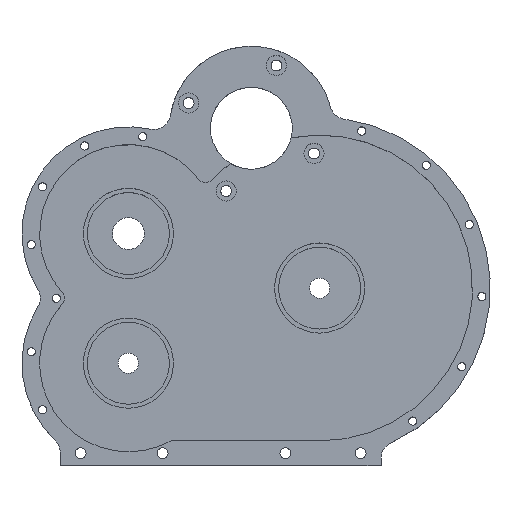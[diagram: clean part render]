
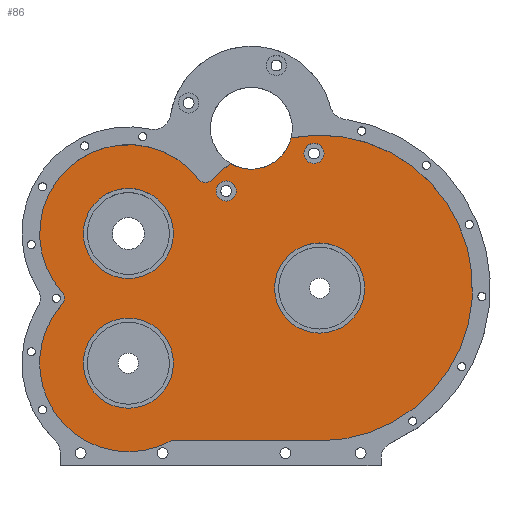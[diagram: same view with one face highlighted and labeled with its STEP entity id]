
A CAD part, top view. The second image highlights one B-rep face of the part: STEP entity #86.
In plain terms, the highlighted planar face has unit normal (0, 0, 1).
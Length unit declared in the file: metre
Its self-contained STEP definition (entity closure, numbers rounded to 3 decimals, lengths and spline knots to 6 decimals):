
#86 = ADVANCED_FACE( '', ( #226, #227, #228, #229, #230, #231 ), #232, .F. );
#226 = FACE_BOUND( '', #494, .T. );
#227 = FACE_BOUND( '', #495, .T. );
#228 = FACE_OUTER_BOUND( '', #496, .T. );
#229 = FACE_BOUND( '', #497, .T. );
#230 = FACE_BOUND( '', #498, .T. );
#231 = FACE_BOUND( '', #499, .T. );
#232 = PLANE( '', #500 );
#494 = EDGE_LOOP( '', ( #868 ) );
#495 = EDGE_LOOP( '', ( #869 ) );
#496 = EDGE_LOOP( '', ( #870, #871, #872, #873, #874, #875, #876, #877 ) );
#497 = EDGE_LOOP( '', ( #878 ) );
#498 = EDGE_LOOP( '', ( #879 ) );
#499 = EDGE_LOOP( '', ( #880 ) );
#500 = AXIS2_PLACEMENT_3D( '', #881, #882, #883 );
#868 = ORIENTED_EDGE( '', *, *, #1427, .T. );
#869 = ORIENTED_EDGE( '', *, *, #1428, .T. );
#870 = ORIENTED_EDGE( '', *, *, #1429, .F. );
#871 = ORIENTED_EDGE( '', *, *, #1330, .F. );
#872 = ORIENTED_EDGE( '', *, *, #1335, .F. );
#873 = ORIENTED_EDGE( '', *, *, #1426, .F. );
#874 = ORIENTED_EDGE( '', *, *, #1424, .F. );
#875 = ORIENTED_EDGE( '', *, *, #1430, .F. );
#876 = ORIENTED_EDGE( '', *, *, #1431, .F. );
#877 = ORIENTED_EDGE( '', *, *, #1432, .F. );
#878 = ORIENTED_EDGE( '', *, *, #1433, .T. );
#879 = ORIENTED_EDGE( '', *, *, #1434, .T. );
#880 = ORIENTED_EDGE( '', *, *, #1435, .T. );
#881 = CARTESIAN_POINT( '', ( 0.24, 0.14, -0.04 ) );
#882 = DIRECTION( '', ( 0., 0., -1. ) );
#883 = DIRECTION( '', ( -1., 0., 0. ) );
#1330 = EDGE_CURVE( '', #1528, #1530, #1531, .F. );
#1335 = EDGE_CURVE( '', #1537, #1528, #1539, .T. );
#1424 = EDGE_CURVE( '', #1705, #1707, #1708, .T. );
#1426 = EDGE_CURVE( '', #1707, #1537, #1710, .T. );
#1427 = EDGE_CURVE( '', #1711, #1711, #1712, .T. );
#1428 = EDGE_CURVE( '', #1713, #1713, #1714, .T. );
#1429 = EDGE_CURVE( '', #1530, #1715, #1716, .T. );
#1430 = EDGE_CURVE( '', #1717, #1705, #1718, .T. );
#1431 = EDGE_CURVE( '', #1719, #1717, #1720, .T. );
#1432 = EDGE_CURVE( '', #1715, #1719, #1721, .T. );
#1433 = EDGE_CURVE( '', #1722, #1722, #1723, .T. );
#1434 = EDGE_CURVE( '', #1724, #1724, #1725, .T. );
#1435 = EDGE_CURVE( '', #1726, #1726, #1727, .T. );
#1528 = VERTEX_POINT( '', #1855 );
#1530 = VERTEX_POINT( '', #1858 );
#1531 = CIRCLE( '', #1859, 0.03 );
#1537 = VERTEX_POINT( '', #1866 );
#1539 = CIRCLE( '', #1869, 0.112 );
#1705 = VERTEX_POINT( '', #2049 );
#1707 = VERTEX_POINT( '', #2052 );
#1708 = CIRCLE( '', #2053, 0.065 );
#1710 = CIRCLE( '', #2056, 0.006 );
#1711 = VERTEX_POINT( '', #2057 );
#1712 = CIRCLE( '', #2058, 0.0074 );
#1713 = VERTEX_POINT( '', #2059 );
#1714 = CIRCLE( '', #2060, 0.033 );
#1715 = VERTEX_POINT( '', #2061 );
#1716 = CIRCLE( '', #2062, 0.112 );
#1717 = VERTEX_POINT( '', #2063 );
#1718 = CIRCLE( '', #2064, 0.006 );
#1719 = VERTEX_POINT( '', #2065 );
#1720 = CIRCLE( '', #2066, 0.065 );
#1721 = LINE( '', #2067, #2068 );
#1722 = VERTEX_POINT( '', #2069 );
#1723 = CIRCLE( '', #2070, 0.033 );
#1724 = VERTEX_POINT( '', #2071 );
#1725 = CIRCLE( '', #2072, 0.033 );
#1726 = VERTEX_POINT( '', #2073 );
#1727 = CIRCLE( '', #2074, 0.0074 );
#1855 = CARTESIAN_POINT( '', ( 0.174854, 0.231104, -0.04 ) );
#1858 = CARTESIAN_POINT( '', ( 0.219184, 0.250049, -0.04 ) );
#1859 = AXIS2_PLACEMENT_3D( '', #2231, #2232, #2233 );
#1866 = CARTESIAN_POINT( '', ( 0.16059, 0.218981, -0.04 ) );
#1869 = AXIS2_PLACEMENT_3D( '', #2242, #2243, #2244 );
#2049 = CARTESIAN_POINT( '', ( 0.051689, 0.136514, -0.04 ) );
#2052 = CARTESIAN_POINT( '', ( 0.151575, 0.21956, -0.04 ) );
#2053 = AXIS2_PLACEMENT_3D( '', #2479, #2480, #2481 );
#2056 = AXIS2_PLACEMENT_3D( '', #2483, #2484, #2485 );
#2057 = CARTESIAN_POINT( '', ( 0.16417, 0.211062, -0.04 ) );
#2058 = AXIS2_PLACEMENT_3D( '', #2486, #2487, #2488 );
#2059 = CARTESIAN_POINT( '', ( 0.067, 0.18, -0.04 ) );
#2060 = AXIS2_PLACEMENT_3D( '', #2489, #2490, #2491 );
#2061 = CARTESIAN_POINT( '', ( 0.24, 0.028, -0.04 ) );
#2062 = AXIS2_PLACEMENT_3D( '', #2492, #2493, #2494 );
#2063 = CARTESIAN_POINT( '', ( 0.051689, 0.128486, -0.04 ) );
#2064 = AXIS2_PLACEMENT_3D( '', #2495, #2496, #2497 );
#2065 = CARTESIAN_POINT( '', ( 0.131241, 0.028, -0.04 ) );
#2066 = AXIS2_PLACEMENT_3D( '', #2498, #2499, #2500 );
#2067 = CARTESIAN_POINT( '', ( 0.24, 0.028, -0.04 ) );
#2068 = VECTOR( '', #2501, 1. );
#2069 = CARTESIAN_POINT( '', ( 0.207, 0.14, -0.04 ) );
#2070 = AXIS2_PLACEMENT_3D( '', #2502, #2503, #2504 );
#2071 = CARTESIAN_POINT( '', ( 0.067, 0.085, -0.04 ) );
#2072 = AXIS2_PLACEMENT_3D( '', #2505, #2506, #2507 );
#2073 = CARTESIAN_POINT( '', ( 0.228538, 0.23857, -0.04 ) );
#2074 = AXIS2_PLACEMENT_3D( '', #2508, #2509, #2510 );
#2231 = CARTESIAN_POINT( '', ( 0.19, 0.257, -0.04 ) );
#2232 = DIRECTION( '', ( 0., 0., -1. ) );
#2233 = DIRECTION( '', ( -1., 0., 0. ) );
#2242 = CARTESIAN_POINT( '', ( 0.24, 0.14, -0.04 ) );
#2243 = DIRECTION( '', ( 0., 0., -1. ) );
#2244 = DIRECTION( '', ( -1., 0., 0. ) );
#2479 = CARTESIAN_POINT( '', ( 0.1, 0.18, -0.04 ) );
#2480 = DIRECTION( '', ( 0., 0., -1. ) );
#2481 = DIRECTION( '', ( -1., 0., 0. ) );
#2483 = CARTESIAN_POINT( '', ( 0.156336, 0.223212, -0.04 ) );
#2484 = DIRECTION( '', ( 0., 0., 1. ) );
#2485 = DIRECTION( '', ( 1., 0., 0. ) );
#2486 = CARTESIAN_POINT( '', ( 0.17157, 0.211062, -0.04 ) );
#2487 = DIRECTION( '', ( 0., 0., -1. ) );
#2488 = DIRECTION( '', ( -1., 0., 0. ) );
#2489 = CARTESIAN_POINT( '', ( 0.1, 0.18, -0.04 ) );
#2490 = DIRECTION( '', ( 0., 0., -1. ) );
#2491 = DIRECTION( '', ( -1., 0., 0. ) );
#2492 = CARTESIAN_POINT( '', ( 0.24, 0.14, -0.04 ) );
#2493 = DIRECTION( '', ( 0., 0., -1. ) );
#2494 = DIRECTION( '', ( -1., 0., 0. ) );
#2495 = CARTESIAN_POINT( '', ( 0.047229, 0.1325, -0.04 ) );
#2496 = DIRECTION( '', ( 0., 0., 1. ) );
#2497 = DIRECTION( '', ( 1., 0., 0. ) );
#2498 = CARTESIAN_POINT( '', ( 0.1, 0.085, -0.04 ) );
#2499 = DIRECTION( '', ( 0., 0., -1. ) );
#2500 = DIRECTION( '', ( -1., 0., 0. ) );
#2501 = DIRECTION( '', ( -1., 0., 0. ) );
#2502 = CARTESIAN_POINT( '', ( 0.24, 0.14, -0.04 ) );
#2503 = DIRECTION( '', ( 0., 0., -1. ) );
#2504 = DIRECTION( '', ( -1., 0., 0. ) );
#2505 = CARTESIAN_POINT( '', ( 0.1, 0.085, -0.04 ) );
#2506 = DIRECTION( '', ( 0., 0., -1. ) );
#2507 = DIRECTION( '', ( -1., 0., 0. ) );
#2508 = CARTESIAN_POINT( '', ( 0.235938, 0.23857, -0.04 ) );
#2509 = DIRECTION( '', ( 0., 0., -1. ) );
#2510 = DIRECTION( '', ( -1., 0., 0. ) );
